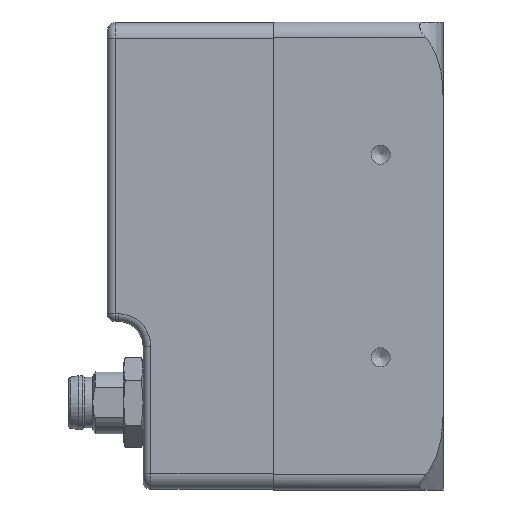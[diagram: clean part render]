
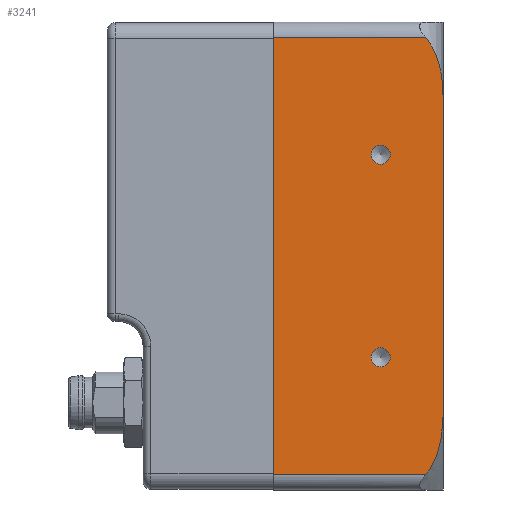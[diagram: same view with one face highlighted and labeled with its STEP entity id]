
A CAD part, left-side view. The second image highlights one B-rep face of the part: STEP entity #3241.
In plain terms, the highlighted planar face has unit normal (-1, 0, 0).
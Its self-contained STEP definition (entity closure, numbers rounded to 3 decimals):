
#3241 = ADVANCED_FACE( '', ( #7714, #7715, #7716 ), #7717, .T. );
#7714 = FACE_BOUND( '', #15819, .T. );
#7715 = FACE_BOUND( '', #15820, .T. );
#7716 = FACE_OUTER_BOUND( '', #15821, .T. );
#7717 = PLANE( '', #15822 );
#15819 = EDGE_LOOP( '', ( #32423 ) );
#15820 = EDGE_LOOP( '', ( #32424 ) );
#15821 = EDGE_LOOP( '', ( #32425, #32426, #32427, #32428, #32429, #32430 ) );
#15822 = AXIS2_PLACEMENT_3D( '', #32431, #32432, #32433 );
#32423 = ORIENTED_EDGE( '', *, *, #44220, .T. );
#32424 = ORIENTED_EDGE( '', *, *, #42276, .T. );
#32425 = ORIENTED_EDGE( '', *, *, #44221, .T. );
#32426 = ORIENTED_EDGE( '', *, *, #44222, .T. );
#32427 = ORIENTED_EDGE( '', *, *, #44223, .T. );
#32428 = ORIENTED_EDGE( '', *, *, #44051, .F. );
#32429 = ORIENTED_EDGE( '', *, *, #43911, .T. );
#32430 = ORIENTED_EDGE( '', *, *, #44224, .F. );
#32431 = CARTESIAN_POINT( '', ( -30., -22.7, -30. ) );
#32432 = DIRECTION( '', ( -1., 0., 0. ) );
#32433 = DIRECTION( '', ( 0., -1., 0. ) );
#42276 = EDGE_CURVE( '', #48695, #48695, #48696, .T. );
#43911 = EDGE_CURVE( '', #51259, #51257, #51260, .T. );
#44051 = EDGE_CURVE( '', #51259, #51464, #51465, .T. );
#44220 = EDGE_CURVE( '', #51711, #51711, #51712, .T. );
#44221 = EDGE_CURVE( '', #51713, #51714, #51715, .T. );
#44222 = EDGE_CURVE( '', #51714, #51716, #51717, .T. );
#44223 = EDGE_CURVE( '', #51716, #51464, #51718, .F. );
#44224 = EDGE_CURVE( '', #51713, #51257, #51719, .T. );
#48695 = VERTEX_POINT( '', #58399 );
#48696 = CIRCLE( '', #58400, 1.23 );
#51257 = VERTEX_POINT( '', #62656 );
#51259 = VERTEX_POINT( '', #62658 );
#51260 = LINE( '', #62659, #62660 );
#51464 = VERTEX_POINT( '', #63003 );
#51465 = B_SPLINE_CURVE_WITH_KNOTS( '', 3, ( #63004, #63005, #63006, #63007, #63008, #63009, #63010, #63011, #63012, #63013, #63014, #63015 ), .UNSPECIFIED., .F., .F., ( 4, 2, 2, 2, 2, 4 ), ( 0.051, 0.053, 0.055, 0.056, 0.057, 0.059 ), .UNSPECIFIED. );
#51711 = VERTEX_POINT( '', #63344 );
#51712 = CIRCLE( '', #63345, 1.23 );
#51713 = VERTEX_POINT( '', #63346 );
#51714 = VERTEX_POINT( '', #63347 );
#51715 = LINE( '', #63348, #63349 );
#51716 = VERTEX_POINT( '', #63350 );
#51717 = LINE( '', #63351, #63352 );
#51718 = LINE( '', #63353, #63354 );
#51719 = B_SPLINE_CURVE_WITH_KNOTS( '', 3, ( #63355, #63356, #63357, #63358, #63359, #63360, #63361, #63362, #63363, #63364, #63365, #63366 ), .UNSPECIFIED., .F., .F., ( 4, 2, 2, 2, 2, 4 ), ( 0.035, 0.036, 0.037, 0.039, 0.041, 0.043 ), .UNSPECIFIED. );
#58399 = CARTESIAN_POINT( '', ( -30., -14.7, 11.771 ) );
#58400 = AXIS2_PLACEMENT_3D( '', #69877, #69878, #69879 );
#62656 = CARTESIAN_POINT( '', ( -30., -22.7, 20.604 ) );
#62658 = CARTESIAN_POINT( '', ( -30., -22.7, -20.604 ) );
#62659 = CARTESIAN_POINT( '', ( -30., -22.7, -30. ) );
#62660 = VECTOR( '', #71754, 1000. );
#63003 = CARTESIAN_POINT( '', ( -30., -20.501, -28. ) );
#63004 = CARTESIAN_POINT( '', ( -30., -22.7, -20.604 ) );
#63005 = CARTESIAN_POINT( '', ( -30., -22.7, -21.258 ) );
#63006 = CARTESIAN_POINT( '', ( -30., -22.666, -21.919 ) );
#63007 = CARTESIAN_POINT( '', ( -30., -22.513, -23.223 ) );
#63008 = CARTESIAN_POINT( '', ( -30., -22.395, -23.867 ) );
#63009 = CARTESIAN_POINT( '', ( -30., -22.14, -24.82 ) );
#63010 = CARTESIAN_POINT( '', ( -30., -22.041, -25.136 ) );
#63011 = CARTESIAN_POINT( '', ( -30., -21.816, -25.753 ) );
#63012 = CARTESIAN_POINT( '', ( -30., -21.69, -26.054 ) );
#63013 = CARTESIAN_POINT( '', ( -30., -21.267, -26.934 ) );
#63014 = CARTESIAN_POINT( '', ( -30., -20.926, -27.49 ) );
#63015 = CARTESIAN_POINT( '', ( -30., -20.501, -28. ) );
#63344 = CARTESIAN_POINT( '', ( -30., -14.7, -14.23 ) );
#63345 = AXIS2_PLACEMENT_3D( '', #72105, #72106, #72107 );
#63346 = CARTESIAN_POINT( '', ( -30., -20.501, 28. ) );
#63347 = CARTESIAN_POINT( '', ( -30., -1., 28. ) );
#63348 = CARTESIAN_POINT( '', ( -30., -22.7, 28. ) );
#63349 = VECTOR( '', #72108, 1000. );
#63350 = CARTESIAN_POINT( '', ( -30., -1., -28. ) );
#63351 = CARTESIAN_POINT( '', ( -30., -1., -30. ) );
#63352 = VECTOR( '', #72109, 1000. );
#63353 = CARTESIAN_POINT( '', ( -30., -22.7, -28. ) );
#63354 = VECTOR( '', #72110, 1000. );
#63355 = CARTESIAN_POINT( '', ( -30., -20.501, 28. ) );
#63356 = CARTESIAN_POINT( '', ( -30., -20.711, 27.748 ) );
#63357 = CARTESIAN_POINT( '', ( -30., -20.904, 27.48 ) );
#63358 = CARTESIAN_POINT( '', ( -30., -21.257, 26.919 ) );
#63359 = CARTESIAN_POINT( '', ( -30., -21.414, 26.63 ) );
#63360 = CARTESIAN_POINT( '', ( -30., -21.838, 25.744 ) );
#63361 = CARTESIAN_POINT( '', ( -30., -22.058, 25.127 ) );
#63362 = CARTESIAN_POINT( '', ( -30., -22.398, 23.851 ) );
#63363 = CARTESIAN_POINT( '', ( -30., -22.515, 23.205 ) );
#63364 = CARTESIAN_POINT( '', ( -30., -22.666, 21.909 ) );
#63365 = CARTESIAN_POINT( '', ( -30., -22.7, 21.258 ) );
#63366 = CARTESIAN_POINT( '', ( -30., -22.7, 20.604 ) );
#69877 = CARTESIAN_POINT( '', ( -30., -14.7, 13. ) );
#69878 = DIRECTION( '', ( 1., 0., 0. ) );
#69879 = DIRECTION( '', ( 0., 0., -1. ) );
#71754 = DIRECTION( '', ( 0., 0., 1. ) );
#72105 = CARTESIAN_POINT( '', ( -30., -14.7, -13. ) );
#72106 = DIRECTION( '', ( 1., 0., 0. ) );
#72107 = DIRECTION( '', ( 0., 0., -1. ) );
#72108 = DIRECTION( '', ( 0., 1., 0. ) );
#72109 = DIRECTION( '', ( 0., 0., -1. ) );
#72110 = DIRECTION( '', ( 0., 1., 0. ) );
